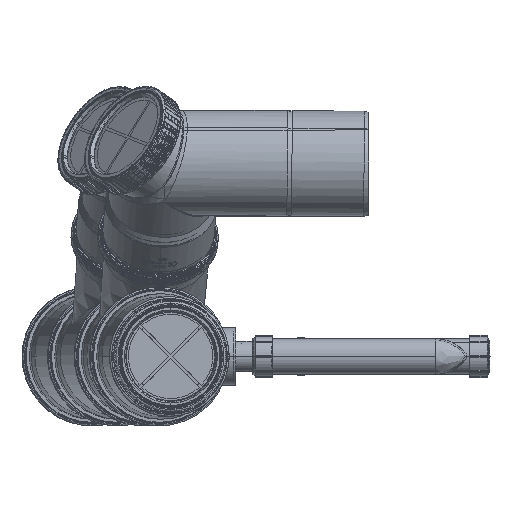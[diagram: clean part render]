
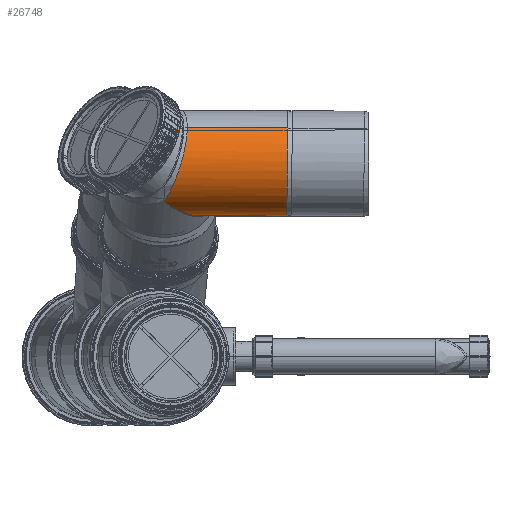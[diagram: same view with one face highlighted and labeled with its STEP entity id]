
A CAD part, left-side view. The second image highlights one B-rep face of the part: STEP entity #26748.
In plain terms, the highlighted cylindrical face has radius 55 mm (diameter 110 mm), a partial arc.
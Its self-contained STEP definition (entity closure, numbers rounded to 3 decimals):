
#13572=CARTESIAN_POINT('',(-191.802,55.,
0.));
#13577=DIRECTION('',(-1.,0.,0.));
#13578=VECTOR('',#13577,73.435);
#13579=CARTESIAN_POINT('',(-118.368,55.,0.));
#13580=LINE('5450',#13579,#13578);
#13598=CARTESIAN_POINT('',(-118.368,0.,0.));
#13599=DIRECTION('',(1.,0.,0.));
#13600=DIRECTION('',(0.,-1.,0.));
#13601=AXIS2_PLACEMENT_3D('',#13598,#13599,#13600);
#13606=CARTESIAN_POINT('',(-191.802,55.,
0.));
#13607=CARTESIAN_POINT('',(-191.803,55.,
-2.301));
#13608=CARTESIAN_POINT('',(-192.09,54.71,
-6.963));
#13609=CARTESIAN_POINT('',(-193.436,53.353,
-13.998));
#13610=CARTESIAN_POINT('',(-195.758,51.012,
-21.021));
#13611=CARTESIAN_POINT('',(-199.196,47.548,
-28.033));
#13612=CARTESIAN_POINT('',(-203.895,42.811,
-34.881));
#13613=CARTESIAN_POINT('',(-209.95,36.708,
-41.297));
#13614=CARTESIAN_POINT('',(-217.451,29.147,
-46.976));
#13615=CARTESIAN_POINT('',(-226.318,20.209,
-51.505));
#13616=CARTESIAN_POINT('',(-236.423,10.024,
-54.411));
#13617=CARTESIAN_POINT('',(-243.046,3.349,
-54.999));
#13618=CARTESIAN_POINT('',(-246.367,0.001,
-55.));
#13623=CARTESIAN_POINT('',(-222.644,-55.,
0.));
#13624=CARTESIAN_POINT('',(-222.644,-55.,
-3.02));
#13625=CARTESIAN_POINT('',(-222.857,-54.501,
-9.086));
#13626=CARTESIAN_POINT('',(-223.837,-52.241,
-18.008));
#13627=CARTESIAN_POINT('',(-225.452,-48.489,
-26.514));
#13628=CARTESIAN_POINT('',(-227.703,-43.27,
-34.393));
#13629=CARTESIAN_POINT('',(-230.562,-36.65,
-41.393));
#13630=CARTESIAN_POINT('',(-233.965,-28.732,
-47.244));
#13631=CARTESIAN_POINT('',(-237.845,-19.807,
-51.638));
#13632=CARTESIAN_POINT('',(-241.988,-10.04,
-54.387));
#13633=CARTESIAN_POINT('',(-244.992,-3.394,
-54.999));
#13634=CARTESIAN_POINT('',(-246.367,0.001,
-55.));
#13639=DIRECTION('',(-1.,0.,0.));
#13640=VECTOR('',#13639,104.276);
#13641=CARTESIAN_POINT('',(-118.368,-55.,0.));
#13642=LINE('5449',#13641,#13640);
#25393=CARTESIAN_POINT('',(-222.644,-55.,
0.));
#25394=VERTEX_POINT('',#25393);
#25531=VERTEX_POINT('',#13572);
#25532=VERTEX_POINT('',#13618);
#25537=CARTESIAN_POINT('',(-118.368,55.,0.));
#25538=CARTESIAN_POINT('',(-118.368,-55.,0.));
#25539=VERTEX_POINT('',#25537);
#25540=VERTEX_POINT('',#25538);
#26734=CARTESIAN_POINT('',(0.,0.,0.));
#26735=DIRECTION('',(1.,0.,0.));
#26736=DIRECTION('',(0.,1.,0.));
#26737=AXIS2_PLACEMENT_3D('',#26734,#26735,#26736);
#26738=CYLINDRICAL_SURFACE('3263',#26737,55.);
#26739=ORIENTED_EDGE('5446',*,*,#26725,.T.);
#26740=ORIENTED_EDGE('5450',*,*,#26700,.T.);
#26742=ORIENTED_EDGE('5336',*,*,#26741,.T.);
#26744=ORIENTED_EDGE('5342',*,*,#26743,.F.);
#26745=ORIENTED_EDGE('5449',*,*,#26694,.F.);
#26746=EDGE_LOOP('3263',(#26739,#26740,#26742,#26744,#26745));
#26747=FACE_OUTER_BOUND('3263',#26746,.F.);
#13602=CIRCLE('5446',#13601,55.);
#13619=B_SPLINE_CURVE_WITH_KNOTS('5336',3,(#13606,#13607,#13608,#13609,#13610,
#13611,#13612,#13613,#13614,#13615,#13616,#13617,#13618),.UNSPECIFIED.,.F.,.F.,(
4,1,1,1,1,1,1,1,1,1,4),(0.,0.1,0.2,0.3,0.4,0.5,0.6,0.7,0.8,
0.9,1.),.UNSPECIFIED.);
#13635=B_SPLINE_CURVE_WITH_KNOTS('5342',3,(#13623,#13624,#13625,#13626,#13627,
#13628,#13629,#13630,#13631,#13632,#13633,#13634),.UNSPECIFIED.,.F.,.F.,(4,1,1,
1,1,1,1,1,1,4),(0.,0.111,0.222,0.333,
0.444,0.556,0.667,0.778,
0.889,1.),.UNSPECIFIED.);
#26694=EDGE_CURVE('5449',#25540,#25394,#13642,.T.);
#26700=EDGE_CURVE('5450',#25539,#25531,#13580,.T.);
#26725=EDGE_CURVE('5446',#25540,#25539,#13602,.T.);
#26741=EDGE_CURVE('5336',#25531,#25532,#13619,.T.);
#26743=EDGE_CURVE('5342',#25394,#25532,#13635,.T.);
#26748=ADVANCED_FACE('3263',(#26747),#26738,.T.);
